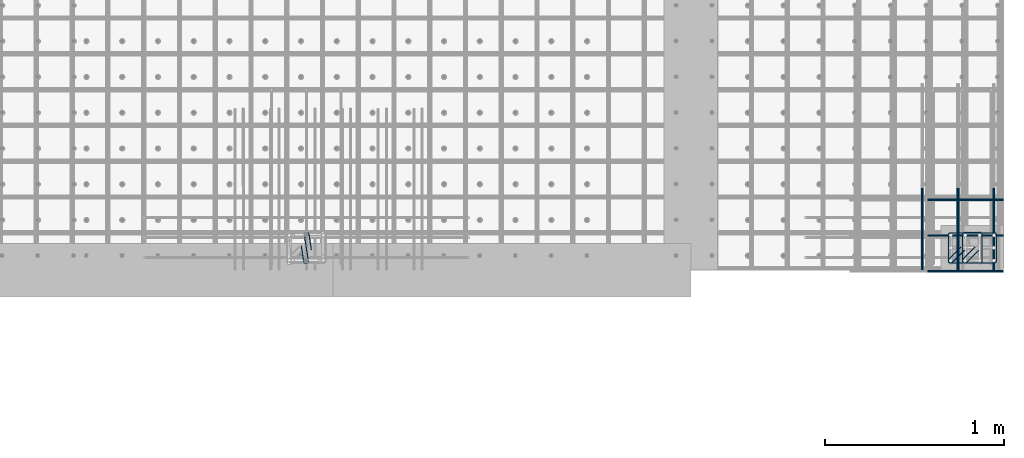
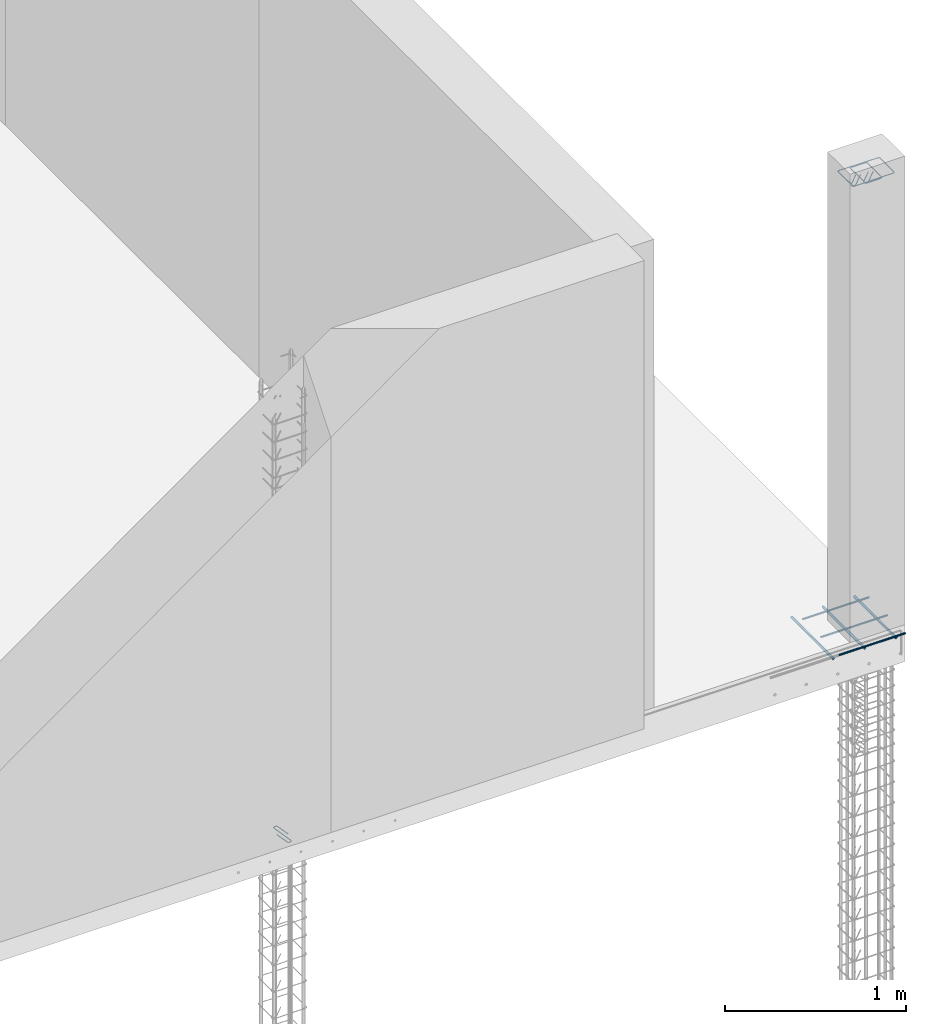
# One storey, part 16 of 17: 5 reinforcing bars.
"""IFC4 building model written with IfcOpenShell, lengths in metres."""

from ifc_helpers import new_model, entity, si_unit, frame, origin_with_axes, place, context, project, spatial, source, transform, mapped, element, save


model = new_model("IFC4")

# Units and contexts
model_context = context("Model", 3, precision=1e-05, world=origin_with_axes())
ifc_project = project(units=[si_unit("LENGTHUNIT", "METRE"), si_unit("AREAUNIT", "SQUARE_METRE"), si_unit("VOLUMEUNIT", "CUBIC_METRE"), si_unit("MASSUNIT", "GRAM", prefix="KILO"), si_unit("TIMEUNIT", "SECOND"), si_unit("PLANEANGLEUNIT", "RADIAN"), si_unit("SOLIDANGLEUNIT", "STERADIAN"), si_unit("THERMODYNAMICTEMPERATUREUNIT", "DEGREE_CELSIUS")], contexts=[model_context])

# Site, building, storey
placement_1 = place(None, origin_with_axes())
site = spatial("IfcSite", under=ifc_project, at=placement_1, Name="Italia", CompositionType="ELEMENT")
building = spatial("IfcBuilding", under=site, at=placement_1, Name="Abitazione", CompositionType="ELEMENT")
storey_placement = place(None, frame((0.0, 0.0, 3.569999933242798), z_axis=(0.0, 0.0, 1.0), x_axis=(1.0, 0.0, 0.0)))
storey = spatial("IfcBuildingStorey", under=building, at=storey_placement, Name="Storey 1", CompositionType="ELEMENT", Elevation=3.569999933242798)

# Reinforcing bars
shared_shape_1 = source(origin_with_axes(), model_context, "Body", "AdvancedSweptSolid", [
    entity("IfcSweptDiskSolid", entity("IfcIndexedPolyCurve", entity("IfcCartesianPointList3D", [[10.7381, 0.903051, 3.445], [10.7247, 0.992047, 3.445], [10.7234, 0.995718, 3.445], [10.7207, 0.998603, 3.445], [10.7172, 1.00026, 3.445], [10.7133, 1.00045, 3.445], [10.7074, 0.999552, 3.445], [10.7037, 0.99823, 3.445], [10.7008, 0.995603, 3.445], [10.6992, 0.992072, 3.445], [10.699, 0.988175, 3.445], [10.721, 0.841825, 3.445], [10.7208, 0.837928, 3.445], [10.7192, 0.834397, 3.445], [10.7163, 0.83177, 3.445], [10.7126, 0.830447, 3.445], [10.7067, 0.829554, 3.445], [10.7028, 0.829737, 3.445], [10.6993, 0.831397, 3.445], [10.6966, 0.834282, 3.445], [10.6953, 0.837953, 3.445], [10.6819, 0.926949, 3.445]]), [entity("IfcLineIndex", [1, 2]), entity("IfcLineIndex", [2, 3]), entity("IfcLineIndex", [3, 4]), entity("IfcLineIndex", [4, 5]), entity("IfcLineIndex", [5, 6]), entity("IfcLineIndex", [6, 7]), entity("IfcLineIndex", [7, 8]), entity("IfcLineIndex", [8, 9]), entity("IfcLineIndex", [9, 10]), entity("IfcLineIndex", [10, 11]), entity("IfcLineIndex", [11, 12]), entity("IfcLineIndex", [12, 13]), entity("IfcLineIndex", [13, 14]), entity("IfcLineIndex", [14, 15]), entity("IfcLineIndex", [15, 16]), entity("IfcLineIndex", [16, 17]), entity("IfcLineIndex", [17, 18]), entity("IfcLineIndex", [18, 19]), entity("IfcLineIndex", [19, 20]), entity("IfcLineIndex", [20, 21]), entity("IfcLineIndex", [21, 22])], False), 0.003),
])
placement_2 = place(placement_1, origin_with_axes())
reinforcing_bar_1_placement = place(placement_2, origin_with_axes())
element("IfcReinforcingBar", 1, at=reinforcing_bar_1_placement, inside=storey, BarLength=0.402429, CrossSectionArea=2.8274e-05, NominalDiameter=0.006, context=model_context, shape_type="MappedRepresentation", body=[
    mapped(shared_shape_1, transform((0.0, 0.0, 0.0), x_axis=(1.0, 0.0, 0.0), y_axis=(0.0, 1.0, 0.0), z_axis=(0.0, 0.0, 1.0), scale=1.0)),
])
shared_shape_2 = source(origin_with_axes(), model_context, "Body", "AdvancedSweptSolid", [
    entity("IfcSweptDiskSolid", entity("IfcIndexedPolyCurve", entity("IfcCartesianPointList3D", [[14.4709, 0.900711, 6.608], [14.4031, 0.832929, 6.60698], [14.396, 0.83, 6.6069], [14.3907, 0.83, 6.60685], [14.3868, 0.830761, 6.6068], [14.3836, 0.832929, 6.60676], [14.3814, 0.836173, 6.60672], [14.3807, 0.84, 6.60668], [14.3807, 0.99, 6.60509], [14.3814, 0.993827, 6.60505], [14.3836, 0.997071, 6.60501], [14.3868, 0.999239, 6.60497], [14.3907, 1.0, 6.60493], [14.4793, 1.0, 6.60399], [14.4832, 0.999239, 6.60394], [14.4864, 0.997071, 6.6039], [14.4886, 0.993827, 6.60386], [14.4893, 0.99, 6.60382], [14.4893, 0.84, 6.60223], [14.4886, 0.836173, 6.60219], [14.4864, 0.832929, 6.60215], [14.4832, 0.830761, 6.60211], [14.4793, 0.83, 6.60207], [14.3907, 0.83, 6.60113], [14.3868, 0.830761, 6.60108], [14.3836, 0.832929, 6.60104], [14.3814, 0.836173, 6.601], [14.3807, 0.84, 6.60096], [14.3807, 0.845358, 6.6009], [14.3836, 0.852429, 6.60082], [14.4514, 0.920211, 6.59981]]), [entity("IfcLineIndex", [1, 2]), entity("IfcLineIndex", [2, 3]), entity("IfcLineIndex", [3, 4]), entity("IfcLineIndex", [4, 5]), entity("IfcLineIndex", [5, 6]), entity("IfcLineIndex", [6, 7]), entity("IfcLineIndex", [7, 8]), entity("IfcLineIndex", [8, 9]), entity("IfcLineIndex", [9, 10]), entity("IfcLineIndex", [10, 11]), entity("IfcLineIndex", [11, 12]), entity("IfcLineIndex", [12, 13]), entity("IfcLineIndex", [13, 14]), entity("IfcLineIndex", [14, 15]), entity("IfcLineIndex", [15, 16]), entity("IfcLineIndex", [16, 17]), entity("IfcLineIndex", [17, 18]), entity("IfcLineIndex", [18, 19]), entity("IfcLineIndex", [19, 20]), entity("IfcLineIndex", [20, 21]), entity("IfcLineIndex", [21, 22]), entity("IfcLineIndex", [22, 23]), entity("IfcLineIndex", [23, 24]), entity("IfcLineIndex", [24, 25]), entity("IfcLineIndex", [25, 26]), entity("IfcLineIndex", [26, 27]), entity("IfcLineIndex", [27, 28]), entity("IfcLineIndex", [28, 29]), entity("IfcLineIndex", [29, 30]), entity("IfcLineIndex", [30, 31])], False), 0.003),
])
reinforcing_bar_2_placement = place(placement_2, origin_with_axes())
element("IfcReinforcingBar", 2, at=reinforcing_bar_2_placement, inside=storey, BarLength=0.773178, CrossSectionArea=2.8274e-05, NominalDiameter=0.006, context=model_context, shape_type="MappedRepresentation", body=[
    mapped(shared_shape_2, transform((0.0, 0.0, 0.0), x_axis=(1.0, 0.0, 0.0), y_axis=(0.0, 1.0, 0.0), z_axis=(0.0, 0.0, 1.0), scale=1.0)),
])
shared_shape_3 = source(origin_with_axes(), model_context, "Body", "AdvancedSweptSolid", [
    entity("IfcSweptDiskSolid", entity("IfcIndexedPolyCurve", entity("IfcCartesianPointList3D", [[14.3912, 0.901711, 6.614], [14.3234, 0.833929, 6.61335], [14.3164, 0.831, 6.6133], [14.311, 0.831, 6.61326], [14.3072, 0.831761, 6.61323], [14.3039, 0.833929, 6.6132], [14.3018, 0.837173, 6.61318], [14.301, 0.841, 6.61315], [14.301, 0.989, 6.61214], [14.3018, 0.992827, 6.61212], [14.3039, 0.996071, 6.61209], [14.3072, 0.998239, 6.61206], [14.311, 0.999, 6.61204], [14.559, 0.999, 6.61035], [14.5628, 0.998239, 6.61032], [14.5661, 0.996071, 6.61029], [14.5682, 0.992827, 6.61027], [14.569, 0.989, 6.61024], [14.569, 0.841, 6.60923], [14.5682, 0.837173, 6.60921], [14.5661, 0.833929, 6.60918], [14.5628, 0.831761, 6.60915], [14.559, 0.831, 6.60913], [14.311, 0.831, 6.60744], [14.3072, 0.831761, 6.60741], [14.3039, 0.833929, 6.60738], [14.3018, 0.837173, 6.60736], [14.301, 0.841, 6.60733], [14.301, 0.846358, 6.6073], [14.3039, 0.853429, 6.60724], [14.3717, 0.921211, 6.60659]]), [entity("IfcLineIndex", [1, 2]), entity("IfcLineIndex", [2, 3]), entity("IfcLineIndex", [3, 4]), entity("IfcLineIndex", [4, 5]), entity("IfcLineIndex", [5, 6]), entity("IfcLineIndex", [6, 7]), entity("IfcLineIndex", [7, 8]), entity("IfcLineIndex", [8, 9]), entity("IfcLineIndex", [9, 10]), entity("IfcLineIndex", [10, 11]), entity("IfcLineIndex", [11, 12]), entity("IfcLineIndex", [12, 13]), entity("IfcLineIndex", [13, 14]), entity("IfcLineIndex", [14, 15]), entity("IfcLineIndex", [15, 16]), entity("IfcLineIndex", [16, 17]), entity("IfcLineIndex", [17, 18]), entity("IfcLineIndex", [18, 19]), entity("IfcLineIndex", [19, 20]), entity("IfcLineIndex", [20, 21]), entity("IfcLineIndex", [21, 22]), entity("IfcLineIndex", [22, 23]), entity("IfcLineIndex", [23, 24]), entity("IfcLineIndex", [24, 25]), entity("IfcLineIndex", [25, 26]), entity("IfcLineIndex", [26, 27]), entity("IfcLineIndex", [27, 28]), entity("IfcLineIndex", [28, 29]), entity("IfcLineIndex", [29, 30]), entity("IfcLineIndex", [30, 31])], False), 0.003),
])
reinforcing_bar_3_placement = place(placement_2, origin_with_axes())
element("IfcReinforcingBar", 3, at=reinforcing_bar_3_placement, inside=storey, BarLength=1.0878, CrossSectionArea=2.8274e-05, NominalDiameter=0.006, context=model_context, shape_type="MappedRepresentation", body=[
    mapped(shared_shape_3, transform((0.0, 0.0, 0.0), x_axis=(1.0, 0.0, 0.0), y_axis=(0.0, 1.0, 0.0), z_axis=(0.0, 0.0, 1.0), scale=1.0)),
])
shared_shape_4 = source(origin_with_axes(), model_context, "Body", "AdvancedSweptSolid", [
    entity("IfcSweptDiskSolid", entity("IfcIndexedPolyCurve", entity("IfcCartesianPointList3D", [[14.1545, 0.79, 3.5], [14.1545, 1.25114, 3.5]]), [entity("IfcLineIndex", [1, 2])], False), 0.008),
])
reinforcing_bar_4_placement = place(placement_2, origin_with_axes())
element("IfcReinforcingBar", 4, at=reinforcing_bar_4_placement, inside=storey, BarLength=0.461142, CrossSectionArea=0.00020106, NominalDiameter=0.016, context=model_context, shape_type="MappedRepresentation", body=[
    mapped(shared_shape_4, transform((0.400001, 0.0, 0.0), x_axis=(1.0, 0.0, 0.0), y_axis=(0.0, 1.0, 0.0), z_axis=(0.0, 0.0, 1.0), scale=1.0)),
    mapped(shared_shape_4, transform((0.200001, 0.0, 0.0), x_axis=(1.0, 0.0, 0.0), y_axis=(0.0, 1.0, 0.0), z_axis=(0.0, 0.0, 1.0), scale=1.0)),
    mapped(shared_shape_4, transform((0.0, 0.0, 0.0), x_axis=(1.0, 0.0, 0.0), y_axis=(0.0, 1.0, 0.0), z_axis=(0.0, 0.0, 1.0), scale=1.0)),
])
shared_shape_5 = source(origin_with_axes(), model_context, "Body", "AdvancedSweptSolid", [
    entity("IfcSweptDiskSolid", entity("IfcIndexedPolyCurve", entity("IfcCartesianPointList3D", [[14.1851, 0.784, 3.516], [14.61, 0.784, 3.516]]), [entity("IfcLineIndex", [1, 2])], False), 0.006),
])
reinforcing_bar_5_placement = place(placement_2, origin_with_axes())
element("IfcReinforcingBar", 5, at=reinforcing_bar_5_placement, inside=storey, BarLength=0.424888, CrossSectionArea=0.0001131, NominalDiameter=0.012, context=model_context, shape_type="MappedRepresentation", body=[
    mapped(shared_shape_5, transform((0.0, 0.4, 0.0), x_axis=(1.0, 0.0, 0.0), y_axis=(0.0, 1.0, 0.0), z_axis=(0.0, 0.0, 1.0), scale=1.0)),
    mapped(shared_shape_5, transform((0.0, 0.2, 0.0), x_axis=(1.0, 0.0, 0.0), y_axis=(0.0, 1.0, 0.0), z_axis=(0.0, 0.0, 1.0), scale=1.0)),
    mapped(shared_shape_5, transform((0.0, 0.0, 0.0), x_axis=(1.0, 0.0, 0.0), y_axis=(0.0, 1.0, 0.0), z_axis=(0.0, 0.0, 1.0), scale=1.0)),
])

save(model, "model.ifc")
